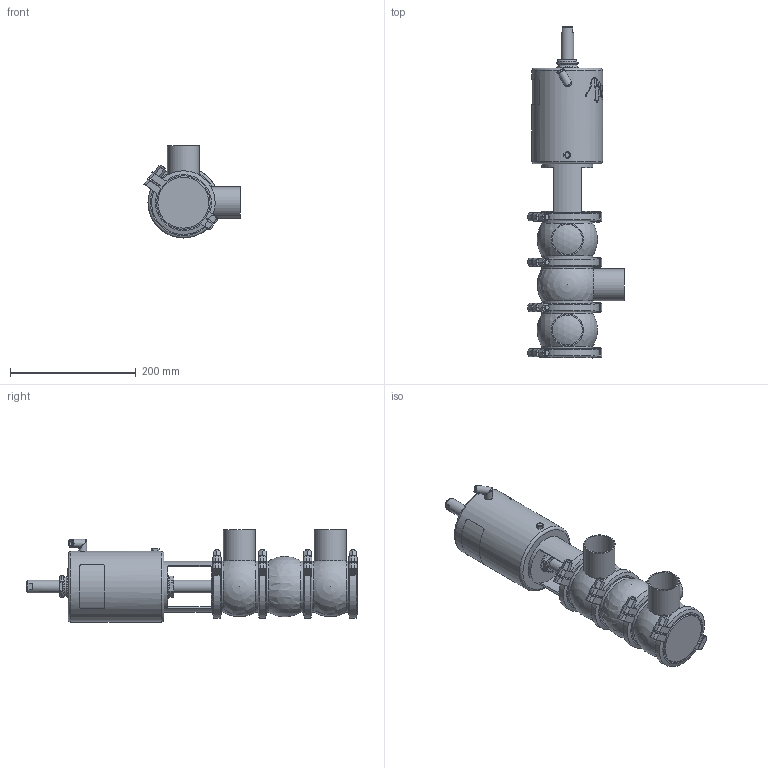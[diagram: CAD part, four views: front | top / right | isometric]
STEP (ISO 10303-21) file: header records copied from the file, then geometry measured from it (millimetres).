
FILE_DESCRIPTION (( 'STEP AP214' ), '1' );
FILE_NAME ('INNOVA L J W OD 2 T2 AS NC_10.241.16.0013.STEP', '2024-08-07T07:50:25', ( '' ), ( '' ), 'SwSTEP 2.0', 'SolidWorks 2023', '' );
FILE_SCHEMA (( 'AUTOMOTIVE_DESIGN' ));
Length unit declared in the file: millimetre
Products named in the file (6): 10.240.15.0010_DN 050; 10.240.15.0014_T2 AS P180; 10.240.15.0001_DN 050; 10.241.15.0001_DIN 050; INNOVA L J W OD 2 T2 AS NC_10.241.16.0013; 10.240.15.0006_OD 2"
Assembly tree (10 placements, depth 2):
  INNOVA L J W OD 2 T2 AS NC_10.241.16.0013
    10.240.15.0006_OD 2"  x3
    10.240.15.0010_DN 050
    10.240.15.0014_T2 AS P180
    10.240.15.0001_DN 050  x4
    10.241.15.0001_DIN 050
Bounding box: 152.59 x 527.27 x 146.25 mm (x, y, z)
Volume: 3234826 mm3; surface area: 363169.2 mm2
Topology: 11 solids, 11 shells, 532 faces, 1400 edges, 911 vertices
Faces by surface type: plane 260, cylinder 136, bspline 80, cone 46, sphere 6, torus 4
Full cylindrical faces by diameter (mm): 6.15 x1, 8 x9, 8.5 x1, 10.5 x1, 12.5 x3, 16 x1, 20 x2, 31 x1, 34.5 x2, 36.5 x1, 47.5 x3, 50.8 x3, 81 x8, 93 x8, 112.5 x1
Entity records: 20387 total; most frequent: CARTESIAN_POINT 11264, ORIENTED_EDGE 1592, DIRECTION 1209, EDGE_CURVE 796, VERTEX_POINT 547, AXIS2_PLACEMENT_3D 460, EDGE_LOOP 399, FACE_OUTER_BOUND 360
